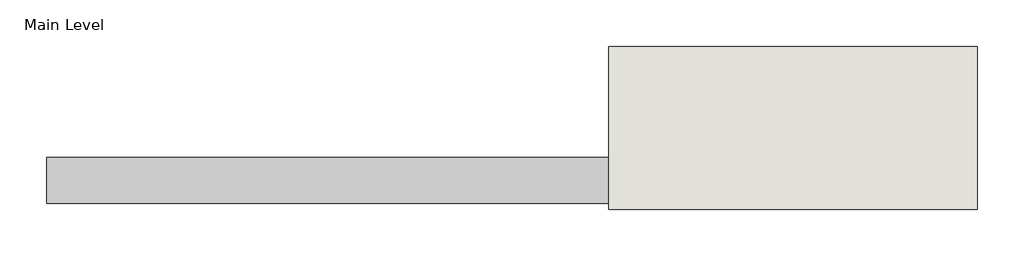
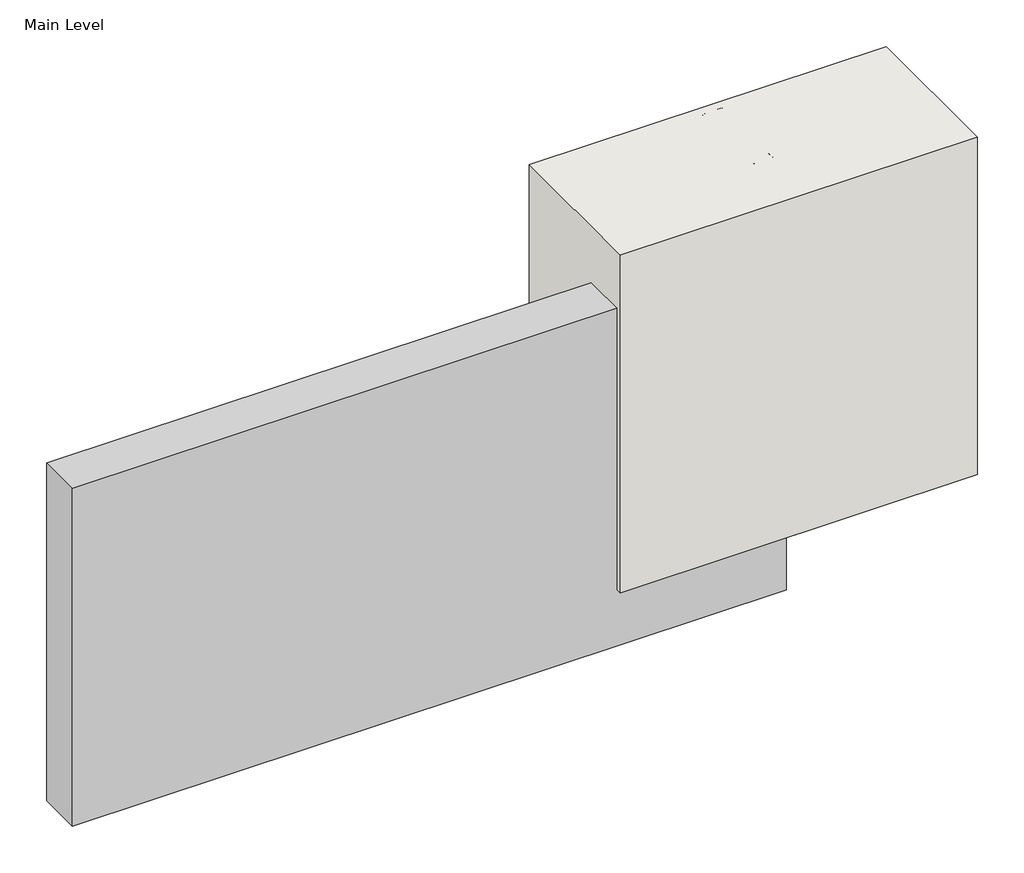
# One storey, incomplete: 7 proxies, 1 wall.
"""IFC4 building model written with IfcOpenShell, lengths in millimetres."""

import ifcopenshell
import ifcopenshell.guid

model = None  # the IFC model being written
_history = None  # IfcOwnerHistory: only IFC2X3 demands one
_inside = {}  # id of a spatial element -> (the spatial element, [elements in it])
_under = {}  # id of a project, library or spatial element -> (it, [spatial elements below it])
_declared = {}  # id of a project -> (the project, [libraries it declares])
_typed = {}  # id of a type object -> (the type object, [elements of that type])
_made_of = {}  # id of a material, layer set ... -> (it, [elements and type objects made of it])


def new_model(schema):
    """Start an empty IFC model of exactly this schema.

    Asked for "IFC4X3", IfcOpenShell would pick the latest addendum, in which some entities
    have other attributes; the version numbers below select the first issue.
    IFC2X3 requires an IfcOwnerHistory on every rooted entity: one is made here for all.
    """
    global model, _history
    if schema == "IFC4X3":
        model = ifcopenshell.file(schema_version=(4, 3, 0, 0))
    else:
        model = ifcopenshell.file(schema=schema)
    _inside.clear()
    _under.clear()
    _declared.clear()
    _typed.clear()
    _made_of.clear()
    _history = None
    if model.schema == "IFC2X3":
        org = make("IfcOrganization", Name="unknown")
        user = make(
            "IfcPersonAndOrganization",
            ThePerson=make("IfcPerson", FamilyName="unknown"),
            TheOrganization=org,
        )
        app = make(
            "IfcApplication",
            ApplicationDeveloper=org,
            Version="unknown",
            ApplicationFullName="unknown",
            ApplicationIdentifier="unknown",
        )
        _history = make(
            "IfcOwnerHistory",
            OwningUser=user,
            OwningApplication=app,
            ChangeAction="ADDED",
            CreationDate=0,
        )
    return model


def make(cls, **values):
    """One entity of the class cls with the attributes given. An attribute that is None is left unset."""
    return model.create_entity(
        cls, **{name: value for name, value in values.items() if value is not None}
    )


def rooted(cls, **values):
    """An entity with a GlobalId (a new one), such as an element, a storey or a relation."""
    return make(cls, GlobalId=ifcopenshell.guid.new(), OwnerHistory=_history, **values)


def si_unit(unit_type, name, prefix=None):
    """IfcSIUnit, for example si_unit("LENGTHUNIT", "METRE", prefix="MILLI")."""
    return make("IfcSIUnit", UnitType=unit_type, Prefix=prefix, Name=name)


def assignment(units):
    """IfcUnitAssignment: the units of a project."""
    return None if units is None else make("IfcUnitAssignment", Units=units)


def point(xyz):
    """IfcCartesianPoint."""
    return None if xyz is None else make("IfcCartesianPoint", Coordinates=xyz)


def direction(xyz):
    """IfcDirection."""
    return None if xyz is None else make("IfcDirection", DirectionRatios=xyz)


def frame(location, z_axis=None, x_axis=None):
    """IfcAxis2Placement3D, a coordinate frame: its origin and axes. An axis left out is left unset."""
    return make(
        "IfcAxis2Placement3D",
        Location=point(location),
        Axis=direction(z_axis),
        RefDirection=direction(x_axis),
    )


def frame_2d(location, x_axis=None):
    """IfcAxis2Placement2D, a coordinate frame in the plane: its origin and x axis."""
    return make(
        "IfcAxis2Placement2D", Location=point(location), RefDirection=direction(x_axis)
    )


def origin():
    """The frame at (0, 0, 0) with its axes left unset."""
    return frame((0.0, 0.0, 0.0))


def origin_with_axes():
    """The frame at (0, 0, 0) with the z axis (0, 0, 1) and the x axis (1, 0, 0) written out."""
    return frame((0.0, 0.0, 0.0), z_axis=(0.0, 0.0, 1.0), x_axis=(1.0, 0.0, 0.0))


def origin_2d():
    """The frame at (0, 0) in the plane with its x axis left unset."""
    return frame_2d((0.0, 0.0))


def place(relative_to, where):
    """IfcLocalPlacement: puts the frame where relative to a parent placement (None: the world)."""
    return make(
        "IfcLocalPlacement", PlacementRelTo=relative_to, RelativePlacement=where
    )


def context(
    kind, dimensions, precision=None, world=None, true_north=None, identifier=None
):
    """IfcGeometricRepresentationContext, for example the 3D "Model" context."""
    return make(
        "IfcGeometricRepresentationContext",
        ContextIdentifier=identifier,
        ContextType=kind,
        CoordinateSpaceDimension=dimensions,
        Precision=precision,
        WorldCoordinateSystem=world,
        TrueNorth=true_north,
    )


def project(units=None, contexts=None):
    """IfcProject with its units and contexts."""
    return rooted(
        "IfcProject",
        Name="project",
        RepresentationContexts=contexts,
        UnitsInContext=assignment(units),
    )


def spatial(cls, under=None, at=None, **own):
    """A site, building, storey or space (cls), placed at a placement, below another one or the project."""
    s = rooted(cls, ObjectPlacement=at, **own)
    if under is not None:
        _under.setdefault(under.id(), (under, []))[1].append(s)
    return s


def polyline(points):
    """IfcPolyline through the points."""
    return make("IfcPolyline", Points=[point(p) for p in points])


def circle_curve(where, radius):
    """IfcCircle in the frame where."""
    return make("IfcCircle", Position=where, Radius=radius)


def trimmed(basis, trim1, trim2, sense, master):
    """IfcTrimmedCurve: the piece of a basis curve between two trims."""
    return make(
        "IfcTrimmedCurve",
        BasisCurve=basis,
        Trim1=trim1,
        Trim2=trim2,
        SenseAgreement=sense,
        MasterRepresentation=master,
    )


def segment(curve, same_sense, transition):
    """IfcCompositeCurveSegment."""
    return make(
        "IfcCompositeCurveSegment",
        Transition=transition,
        SameSense=same_sense,
        ParentCurve=curve,
    )


def composite_curve(segments, self_intersect=None):
    """IfcCompositeCurve: segments joined end to end."""
    return make("IfcCompositeCurve", Segments=segments, SelfIntersect=self_intersect)


def outline(outer, holes=None, kind="AREA"):
    """IfcArbitraryClosedProfileDef: a profile drawn as a closed curve; with holes, ...WithVoids."""
    if holes is None:
        return make("IfcArbitraryClosedProfileDef", ProfileType=kind, OuterCurve=outer)
    return make(
        "IfcArbitraryProfileDefWithVoids",
        ProfileType=kind,
        OuterCurve=outer,
        InnerCurves=holes,
    )


def extrude(swept, where, along, depth):
    """IfcExtrudedAreaSolid: the profile swept, set in the frame where, extruded along a direction by depth."""
    return make(
        "IfcExtrudedAreaSolid",
        SweptArea=swept,
        Position=where,
        ExtrudedDirection=direction(along),
        Depth=depth,
    )


def shape(context_of_items, identifier, shape_type, items):
    """IfcShapeRepresentation: the items that make up one representation, for example the "Body"."""
    return make(
        "IfcShapeRepresentation",
        ContextOfItems=context_of_items,
        RepresentationIdentifier=identifier,
        RepresentationType=shape_type,
        Items=items,
    )


def source(mapping_origin, context_of_items, identifier, shape_type, items):
    """IfcRepresentationMap: a shape defined once, which mapped items show again and again."""
    return make(
        "IfcRepresentationMap",
        MappingOrigin=mapping_origin,
        MappedRepresentation=shape(context_of_items, identifier, shape_type, items),
    )


def transform(
    local_origin,
    x_axis=None,
    y_axis=None,
    z_axis=None,
    scale=None,
    scale2=None,
    scale3=None,
    uniform=True,
):
    """IfcCartesianTransformationOperator3D, or its non-uniform kind. x_axis, y_axis, z_axis: its Axis1, 2, 3."""
    if uniform:
        return make(
            "IfcCartesianTransformationOperator3D",
            Axis1=direction(x_axis),
            Axis2=direction(y_axis),
            LocalOrigin=point(local_origin),
            Scale=scale,
            Axis3=direction(z_axis),
        )
    return make(
        "IfcCartesianTransformationOperator3DnonUniform",
        Axis1=direction(x_axis),
        Axis2=direction(y_axis),
        LocalOrigin=point(local_origin),
        Scale=scale,
        Axis3=direction(z_axis),
        Scale2=scale2,
        Scale3=scale3,
    )


def mapped(mapping_source, mapping_target):
    """IfcMappedItem: shows the shape of a source again, moved by a transform."""
    return make(
        "IfcMappedItem", MappingSource=mapping_source, MappingTarget=mapping_target
    )


def made_of(thing, what):
    """Note that an element or type object is made of a material, layer set ...; save() writes the relation."""
    if what is not None:
        _made_of.setdefault(what.id(), (what, []))[1].append(thing)
    return thing


def element(
    cls,
    number,
    at=None,
    inside=None,
    cuts=None,
    type_object=None,
    material=None,
    context=None,
    identifier="Body",
    shape_type=None,
    held_by="IfcProductDefinitionShape",
    body=None,
    shapes=None,
    **own,
):
    """One element of the class cls, such as IfcWall. Its Tag is "e" and its number.

    at: its placement. inside: the storey or other place that contains it. cuts: it is an
    opening in that element (IfcRelVoidsElement). A single representation is given by context,
    identifier, shape_type and body (its items); several are given by shapes. held_by: the class
    of the entity that holds the representations. save() writes the other relations.
    """
    e = rooted(cls, Tag="e%d" % number, ObjectPlacement=at, **own)
    if body is not None:
        shapes = [shape(context, identifier, shape_type, body)]
    if shapes is not None:
        e.Representation = make(held_by, Representations=shapes)
    if inside is not None:
        _inside.setdefault(inside.id(), (inside, []))[1].append(e)
    if cuts is not None:
        rooted(
            "IfcRelVoidsElement", RelatingBuildingElement=cuts, RelatedOpeningElement=e
        )
    if type_object is not None:
        _typed.setdefault(type_object.id(), (type_object, []))[1].append(e)
    return made_of(e, material)


def aggregate(whole, parts):
    """IfcRelAggregates: a whole, such as a stair, and the parts it consists of."""
    return rooted("IfcRelAggregates", RelatingObject=whole, RelatedObjects=parts)


def save(model, path):
    """Write the relations noted so far, then the file.

    IfcRelAggregates (storeys below a building ...), IfcRelContainedInSpatialStructure (elements
    in a storey), IfcRelDefinesByType, IfcRelAssociatesMaterial and IfcRelDeclares: one each for
    every whole, place, type object, material and project.
    """
    for whole, parts in _under.values():
        aggregate(whole, parts)
    for where, things in _inside.values():
        rooted(
            "IfcRelContainedInSpatialStructure",
            RelatedElements=things,
            RelatingStructure=where,
        )
    for kind, things in _typed.values():
        rooted("IfcRelDefinesByType", RelatedObjects=things, RelatingType=kind)
    for what, things in _made_of.values():
        rooted("IfcRelAssociatesMaterial", RelatedObjects=things, RelatingMaterial=what)
    for by, libraries in _declared.values():
        rooted("IfcRelDeclares", RelatingContext=by, RelatedDefinitions=libraries)
    model.write(path)


def plane_surface(at):
    """IfcPlane: the flat surface through the origin of the frame at, square to its z axis."""
    return make("IfcPlane", Position=at)


def cylinder_surface(at, radius):
    """IfcCylindricalSurface: all points at the distance radius from the z axis of the frame at."""
    return make("IfcCylindricalSurface", Position=at, Radius=radius)


def revolved_surface(curve, axis_point, axis_direction):
    """IfcSurfaceOfRevolution: the curve turned about the line through axis_point along axis_direction."""
    return make(
        "IfcSurfaceOfRevolution",
        SweptCurve=make("IfcArbitraryOpenProfileDef", ProfileType="CURVE", Curve=curve),
        AxisPosition=make("IfcAxis1Placement", Location=point(axis_point), Axis=direction(axis_direction)),
    )


def advanced_brep(points, edges, surfaces, faces):
    """IfcAdvancedBrep: a solid bounded by faces that lie on surfaces and meet in shared edges.

    An edge is (start, end): straight between two places in points (the first is 0);
    or (start, end, curve); or (start, end, curve, False) where it runs against its curve.
    A face is (place in surfaces, loops), or (place, loops, False) where it looks against
    its surface's normal. A loop lists edges by number (the first is 1), with a minus sign
    where the edge is run from its end to its start. The first loop is the outer one.
    """
    corners = [point(p) for p in points]
    vertices = [make("IfcVertexPoint", VertexGeometry=c) for c in corners]
    made = []
    for start, end, *more in edges:
        made.append(
            make(
                "IfcEdgeCurve",
                EdgeStart=vertices[start],
                EdgeEnd=vertices[end],
                EdgeGeometry=more[0] if more else make("IfcPolyline", Points=[corners[start], corners[end]]),
                SameSense=more[1] if len(more) > 1 else True,
            )
        )
    hull = []
    for where, loops, *sense in faces:
        bounds = []
        for j, loop in enumerate(loops):
            ring = [make("IfcOrientedEdge", EdgeElement=made[abs(k) - 1], Orientation=k > 0) for k in loop]
            bounds.append(
                make(
                    "IfcFaceOuterBound" if j == 0 else "IfcFaceBound",
                    Bound=make("IfcEdgeLoop", EdgeList=ring),
                    Orientation=True,
                )
            )
        hull.append(make("IfcAdvancedFace", Bounds=bounds, FaceSurface=surfaces[where], SameSense=sense[0] if sense else True))
    return make("IfcAdvancedBrep", Outer=make("IfcClosedShell", CfsFaces=hull))


def generic_models_38adcc71(model_context):
    return source(origin(), model_context, "Body", "SweptSolid", [
        extrude(outline(composite_curve([segment(polyline([(9.525, 0.0), (9.525, -19.05)]), True, "CONTINUOUS"), segment(trimmed(circle_curve(frame_2d((0.0, -35.5477839)), 19.05), [point((9.525, -19.05))], [point((-9.525, -19.05))], True, "CARTESIAN"), True, "CONTINUOUS"), segment(polyline([(-9.525, -19.05), (-9.525, 0.0)]), True, "CONTINUOUS"), segment(trimmed(circle_curve(origin_2d(), 9.525), [point((-9.525, 0.0))], [point((9.525, 0.0))], True, "CARTESIAN"), True, "CONTINUOUS")], self_intersect=False)), origin_with_axes(), (0.0, 0.0, 1.0), 508.0),
        extrude(outline(composite_curve([segment(trimmed(circle_curve(origin_2d(), 9.525), [point((-9.525, 0.0))], [point((9.525, 0.0))], False, "CARTESIAN"), True, "CONTINUOUS"), segment(trimmed(circle_curve(origin_2d(), 9.525), [point((9.525, 0.0))], [point((-9.525, 0.0))], False, "CARTESIAN"), True, "CONTINUOUS")], self_intersect=False)), origin_with_axes(), (0.0, 0.0, 1.0), 508.0),
    ])


def generic_models_03ec6e0e(model_context):
    return source(origin(), model_context, "Body", "AdvancedBrep", [
        advanced_brep(
        [(3.96875, 0.0, -0.396875), (-3.96875, 0.0, -0.396875), (-3.96875, 0.0, 0.396875), (3.96875, 0.0, 0.396875), (0.79375, 0.0, -3.571875), (-0.79375, 0.0, -3.571875), (0.79375, 0.0, -35.5223148), (-0.79375, 0.0, -35.5223148), (0.0, 0.0, -37.703125), (-2.4010937, 0.0, 0.396875), (-2.4010937, 0.396875, 0.396875), (-0.396875, 0.396875, 0.396875), (-0.396875, 2.4010937, 0.396875), (0.396875, 2.4010937, 0.396875), (0.396875, 0.396875, 0.396875), (2.4010938, 0.396875, 0.396875), (2.4010938, 0.0, 0.396875), (2.4010938, -0.396875, 0.396875), (0.396875, -0.396875, 0.396875), (0.396875, -2.4010938, 0.396875), (-0.396875, -2.4010938, 0.396875), (-0.396875, -0.396875, 0.396875), (-2.4010937, -0.396875, 0.396875), (0.396875, -2.4010938, -1.2025097), (0.396875, -0.396875, -1.2025097), (2.4010938, -0.396875, -1.2025097), (2.4010938, 0.396875, -1.2025097), (0.396875, 0.396875, -1.2025097), (0.396875, 2.4010937, -1.2025097), (-0.396875, 2.4010937, -1.2025097), (-0.396875, 0.396875, -1.2025097), (-2.4010937, 0.396875, -1.2025097), (-2.4010937, -0.396875, -1.2025097), (-0.396875, -0.396875, -1.2025097), (-0.396875, -2.4010938, -1.2025097)],
        [
            (0, 1, circle_curve(frame((0.0, 0.0, -0.396875), z_axis=(0.0, 0.0, 1.0), x_axis=(-1.0, 0.0, 0.0)), 3.96875)),
            (1, 2),
            (2, 3, circle_curve(frame((0.0, 0.0, 0.396875), z_axis=(0.0, 0.0, -1.0), x_axis=(-1.0, 0.0, 0.0)), 3.96875)),
            (3, 0),
            (1, 0, circle_curve(frame((0.0, 0.0, -0.396875), z_axis=(0.0, 0.0, 1.0), x_axis=(-1.0, 0.0, 0.0)), 3.96875)),
            (3, 2, circle_curve(frame((0.0, 0.0, 0.396875), z_axis=(0.0, 0.0, -1.0), x_axis=(-1.0, 0.0, 0.0)), 3.96875)),
            (0, 4),
            (4, 5, circle_curve(frame((0.0, 0.0, -3.571875), z_axis=(0.0, 0.0, 1.0), x_axis=(-1.0, 0.0, 0.0)), 0.79375)),
            (5, 1),
            (5, 4, circle_curve(frame((0.0, 0.0, -3.571875), z_axis=(0.0, 0.0, 1.0), x_axis=(-1.0, 0.0, 0.0)), 0.79375)),
            (4, 6),
            (6, 7, circle_curve(frame((0.0, 0.0, -35.5223148), z_axis=(0.0, 0.0, 1.0), x_axis=(-1.0, 0.0, 0.0)), 0.79375)),
            (7, 5),
            (7, 6, circle_curve(frame((0.0, 0.0, -35.5223148), z_axis=(0.0, 0.0, 1.0), x_axis=(-1.0, 0.0, 0.0)), 0.79375)),
            (6, 8),
            (8, 7),
            (2, 9),
            (9, 10),
            (10, 11),
            (11, 12),
            (12, 13),
            (13, 14),
            (14, 15),
            (15, 16),
            (16, 3),
            (16, 17),
            (17, 18),
            (18, 19),
            (19, 20),
            (20, 21),
            (21, 22),
            (22, 9),
            (23, 24),
            (24, 25),
            (25, 26),
            (26, 27),
            (27, 28),
            (28, 29),
            (29, 30),
            (30, 31),
            (31, 32),
            (32, 33),
            (33, 34),
            (34, 23),
            (34, 20),
            (19, 23),
            (33, 21),
            (32, 22),
            (31, 10),
            (30, 11),
            (29, 12),
            (28, 13),
            (27, 14),
            (26, 15),
            (25, 17),
            (24, 18),
        ],
        [
            cylinder_surface(frame((0.0, 0.0, 7.2579317), z_axis=(0.0, 0.0, -1.0), x_axis=(-1.0, 0.0, 0.0)), 3.96875),
            revolved_surface(polyline([(-3.96875, 0.0, -0.396875), (-0.79375, 0.0, -3.571875)]), (0.0, 0.0, 7.2579317), (0.0, 0.0, -1.0)),
            cylinder_surface(frame((0.0, 0.0, 7.2579317), z_axis=(0.0, 0.0, -1.0), x_axis=(-1.0, 0.0, 0.0)), 0.79375),
            revolved_surface(polyline([(-0.79375, 0.0, -35.5223148), (0.0, 0.0, -37.703125)]), (0.0, 0.0, 7.2579317), (0.0, 0.0, -1.0)),
            plane_surface(frame((0.0, 0.0, 0.396875), z_axis=(0.0, 0.0, 1.0), x_axis=(-1.0, 0.0, 0.0))),
            plane_surface(frame((-0.396875, -2.4010938, -1.2025097), z_axis=(0.0, 0.0, 1.0), x_axis=(-1.0, 0.0, 0.0))),
            plane_surface(frame((0.396875, -2.4010938, -1.2025097), z_axis=(0.0, 1.0, 0.0), x_axis=(0.0, 0.0, 1.0))),
            plane_surface(frame((-0.396875, -2.4010938, -1.2025097), z_axis=(1.0, 0.0, 0.0), x_axis=(0.0, 0.0, 1.0))),
            plane_surface(frame((-0.396875, -0.396875, -1.2025097), z_axis=(0.0, 1.0, 0.0), x_axis=(0.0, 0.0, 1.0))),
            plane_surface(frame((-2.4010937, -0.396875, -1.2025097), z_axis=(1.0, 0.0, 0.0), x_axis=(0.0, 0.0, 1.0))),
            plane_surface(frame((-2.4010937, 0.396875, -1.2025097), z_axis=(0.0, -1.0, 0.0), x_axis=(0.0, 0.0, 1.0))),
            plane_surface(frame((-0.396875, 0.396875, -1.2025097), z_axis=(1.0, 0.0, 0.0), x_axis=(0.0, 0.0, 1.0))),
            plane_surface(frame((-0.396875, 2.4010937, -1.2025097), z_axis=(0.0, -1.0, 0.0), x_axis=(0.0, 0.0, 1.0))),
            plane_surface(frame((0.396875, 2.4010937, -1.2025097), z_axis=(-1.0, 0.0, 0.0), x_axis=(0.0, 0.0, 1.0))),
            plane_surface(frame((0.396875, 0.396875, -1.2025097), z_axis=(0.0, -1.0, 0.0), x_axis=(0.0, 0.0, 1.0))),
            plane_surface(frame((2.4010938, 0.396875, -1.2025097), z_axis=(-1.0, 0.0, 0.0), x_axis=(0.0, 0.0, 1.0))),
            plane_surface(frame((2.4010938, -0.396875, -1.2025097), z_axis=(0.0, 1.0, 0.0), x_axis=(0.0, 0.0, 1.0))),
            plane_surface(frame((0.396875, -0.396875, -1.2025097), z_axis=(-1.0, 0.0, 0.0), x_axis=(0.0, 0.0, 1.0))),
        ],
        [
            (0, [[1, 2, 3, 4]]),
            (0, [[-2, 5, -4, 6]]),
            (1, [[-1, 7, 8, 9]]),
            (1, [[-5, -9, 10, -7]]),
            (2, [[-8, 11, 12, 13]]),
            (2, [[-10, -13, 14, -11]]),
            (3, [[-12, 15, 16]]),
            (3, [[-14, -16, -15]]),
            (4, [[-3, 17, 18, 19, 20, 21, 22, 23, 24, 25]]),
            (4, [[-6, -25, 26, 27, 28, 29, 30, 31, 32, -17]]),
            (5, [[33, 34, 35, 36, 37, 38, 39, 40, 41, 42, 43, 44]]),
            (6, [[-44, 45, -29, 46]]),
            (7, [[-43, 47, -30, -45]]),
            (8, [[-42, 48, -31, -47]]),
            (9, [[-41, 49, -18, -32, -48]]),
            (10, [[-40, 50, -19, -49]]),
            (11, [[-39, 51, -20, -50]]),
            (12, [[-38, 52, -21, -51]]),
            (13, [[-37, 53, -22, -52]]),
            (14, [[-36, 54, -23, -53]]),
            (15, [[-35, 55, -26, -24, -54]]),
            (16, [[-34, 56, -27, -55]]),
            (17, [[-33, -46, -28, -56]]),
        ],
    ),
    ])


def proxy_81afb05a(model_context):
    return source(origin(), model_context, "Body", "SweptSolid", [
        extrude(outline(polyline([(-609.6, 304.8), (609.6, 304.8), (609.6, -304.8), (-609.6, -304.8), (-609.6, 304.8)])), origin_with_axes(), (0.0, 0.0, 1.0), 76.2),
    ])


def proxy_5fc139d0(model_context):
    return source(origin(), model_context, "Body", "SweptSolid", [
        extrude(outline(polyline([(-101.6, 0.0), (0.0, 0.0), (0.0, -0.79375), (-101.6, -0.79375), (-101.6, 0.0)])), origin_with_axes(), (0.0, 0.0, 1.0), 584.2),
    ])


def finish_coat_valley_finish_coat_valley_fec99bc7(model_context):
    return source(origin(), model_context, "Body", "SweptSolid", [
        extrude(outline(polyline([(26815.4039273, 630.8048866), (26815.4039273, 554.6048866), (26809.0539273, 554.6048866), (26809.0539273, 624.4548866), (26707.4539273, 624.4548866), (26707.4539273, 630.8048866), (26815.4039273, 630.8048866)])), origin_with_axes(), (0.0, 0.0, 1.0), 508.0),
        extrude(outline(composite_curve([segment(trimmed(circle_curve(frame_2d((26824.9289273, 541.2838457)), 19.05), [point((26815.4039273, 557.7816297))], [point((26818.5789273, 559.244358))], False, "CARTESIAN"), True, "CONTINUOUS"), segment(polyline([(26818.5789273, 559.244358), (26818.5789273, 545.0816297), (26815.4039273, 545.0816297), (26815.4039273, 557.7816297)]), True, "CONTINUOUS")], self_intersect=False)), origin_with_axes(), (0.0, 0.0, 1.0), 381.0),
    ])


def proxy_d4c17246(model_context):
    return source(origin(), model_context, "Body", "SweptSolid", [
        extrude(outline(composite_curve([segment(polyline([(19.05, 63.5), (15.875, 63.5), (15.875, 70.2679713)]), True, "CONTINUOUS"), segment(trimmed(circle_curve(frame_2d((12.7, 69.85)), 3.2023936), [point((15.875, 70.2679713))], [point((13.1179713, 73.025))], True, "CARTESIAN"), True, "CONTINUOUS"), segment(polyline([(13.1179713, 73.025), (-13.1179713, 73.025)]), True, "CONTINUOUS"), segment(trimmed(circle_curve(frame_2d((-12.7, 69.85)), 3.2023936), [point((-13.1179713, 73.025))], [point((-15.875, 70.2679713))], True, "CARTESIAN"), True, "CONTINUOUS"), segment(polyline([(-15.875, 70.2679713), (-15.875, -70.2679713)]), True, "CONTINUOUS"), segment(trimmed(circle_curve(frame_2d((-12.7, -69.85)), 3.2023936), [point((-15.875, -70.2679713))], [point((-13.1179713, -73.025))], True, "CARTESIAN"), True, "CONTINUOUS"), segment(polyline([(-13.1179713, -73.025), (13.1179713, -73.025)]), True, "CONTINUOUS"), segment(trimmed(circle_curve(frame_2d((12.7, -69.85)), 3.2023936), [point((13.1179713, -73.025))], [point((15.875, -70.2679713))], True, "CARTESIAN"), True, "CONTINUOUS"), segment(polyline([(15.875, -70.2679713), (15.875, -63.5), (19.05, -63.5), (19.05, -69.85)]), True, "CONTINUOUS"), segment(trimmed(circle_curve(frame_2d((12.7, -69.85)), 6.35), [point((19.05, -69.85))], [point((12.7, -76.2))], False, "CARTESIAN"), True, "CONTINUOUS"), segment(polyline([(12.7, -76.2), (-12.7, -76.2)]), True, "CONTINUOUS"), segment(trimmed(circle_curve(frame_2d((-12.7, -69.85)), 6.35), [point((-12.7, -76.2))], [point((-19.05, -69.85))], False, "CARTESIAN"), True, "CONTINUOUS"), segment(polyline([(-19.05, -69.85), (-19.05, 69.85)]), True, "CONTINUOUS"), segment(trimmed(circle_curve(frame_2d((-12.7, 69.85)), 6.35), [point((-19.05, 69.85))], [point((-12.7, 76.2))], False, "CARTESIAN"), True, "CONTINUOUS"), segment(polyline([(-12.7, 76.2), (12.7, 76.2)]), True, "CONTINUOUS"), segment(trimmed(circle_curve(frame_2d((12.7, 69.85)), 6.35), [point((12.7, 76.2))], [point((19.05, 69.85))], False, "CARTESIAN"), True, "CONTINUOUS"), segment(polyline([(19.05, 69.85), (19.05, 63.5)]), True, "CONTINUOUS")], self_intersect=False)), origin_with_axes(), (0.0, 0.0, 1.0), 609.6),
    ])


model = new_model("IFC4")

# Units and contexts
model_context = context("Model", 3, world=origin())
ifc_project = project(units=[si_unit("LENGTHUNIT", "METRE", prefix="MILLI")], contexts=[model_context])

# Site, building, storey
site = spatial("IfcSite", under=ifc_project)
building = spatial("IfcBuilding", under=site)
storey = spatial("IfcBuildingStorey", under=building, Name="Main Level", Elevation=0.0)

# Proxies
placement = place(None, origin())
generic_models_shape = generic_models_38adcc71(model_context)
element("IfcBuildingElementProxy", 1, Name="CRAi Generic Model Backer Rod and Sealant : CRAi Generic Model Backer Rod and Sealant", ObjectType="CRAi Generic Model Backer Rod and Sealant : CRAi Generic Model Backer Rod and Sealant", at=placement, inside=storey, context=model_context, shape_type="MappedRepresentation", body=[
    mapped(generic_models_shape, transform((26824.9289273, 576.8316297, 0.0), x_axis=(1.0, 0.0, 0.0), y_axis=(0.0, 1.0, 0.0), z_axis=(0.0, 0.0, 1.0))),
])
generic_models_2_shape = generic_models_03ec6e0e(model_context)
element("IfcBuildingElementProxy", 2, Name="CRAi Generic Model Drywall Screw : CRAi Generic Model Drywall Screw", ObjectType="CRAi Generic Model Drywall Screw : CRAi Generic Model Drywall Screw", at=placement, inside=storey, context=model_context, shape_type="MappedRepresentation", body=[
    mapped(generic_models_2_shape, transform((26834.4539273, 633.9816297, 584.2), x_axis=(1.0, 0.0, 0.0), y_axis=(0.0, 0.0, 1.0), z_axis=(0.0, -1.0, 0.0))),
])
element("IfcBuildingElementProxy", 3, Name="CRAi Generic Model Drywall Screw : CRAi Generic Model Drywall Screw", ObjectType="CRAi Generic Model Drywall Screw : CRAi Generic Model Drywall Screw", at=placement, inside=storey, context=model_context, shape_type="MappedRepresentation", body=[
    mapped(generic_models_2_shape, transform((26815.4039273, 633.9816297, 584.2), x_axis=(1.0, 0.0, 0.0), y_axis=(0.0, 0.0, 1.0), z_axis=(0.0, -1.0, 0.0))),
])
proxy_shape = proxy_81afb05a(model_context)
element("IfcBuildingElementProxy", 4, Name="Durabond Generic Model Equalite Insulation Board : 3\"", ObjectType="Durabond Generic Model Equalite Insulation Board : 3\"", at=placement, inside=storey, context=model_context, shape_type="MappedRepresentation", body=[
    mapped(proxy_shape, transform((26199.4539273, 630.8048866, 203.3487758), x_axis=(1.0, 0.0, 0.0), y_axis=(0.0, 0.0, 1.0), z_axis=(0.0, -1.0, 0.0))),
])
proxy_2_shape = proxy_5fc139d0(model_context)
element("IfcBuildingElementProxy", 5, Name="Durabond Generic Model Barrier Seam Tape Straight : 4\" Barrier Seam Tape", ObjectType="Durabond Generic Model Barrier Seam Tape Straight : 4\" Barrier Seam Tape", at=placement, inside=storey, context=model_context, shape_type="MappedRepresentation", body=[
    mapped(proxy_2_shape, transform((26875.7289273, 633.9816297, 0.0), x_axis=(1.0, 0.0, 0.0), y_axis=(0.0, 1.0, 0.0), z_axis=(0.0, 0.0, 1.0))),
])
finish_coat_valley_finish_coat_valley_shape = finish_coat_valley_finish_coat_valley_fec99bc7(model_context)
element("IfcBuildingElementProxy", 6, Name="Finish Coat Valley : Finish Coat Valley", ObjectType="Finish Coat Valley : Finish Coat Valley", at=placement, inside=storey, context=model_context, shape_type="MappedRepresentation", body=[
    mapped(finish_coat_valley_finish_coat_valley_shape, transform((0.0, 0.0, 0.0), x_axis=(1.0, 0.0, 0.0), y_axis=(0.0, 1.0, 0.0), z_axis=(0.0, 0.0, 1.0))),
])
proxy_3_shape = proxy_d4c17246(model_context)
element("IfcBuildingElementProxy", 7, Name="CRAi Generic Model Metal Stud : Metal Framing Stud - 1\" x 3.5\"", ObjectType="CRAi Generic Model Metal Stud : Metal Framing Stud - 1\" x 3.5\"", at=placement, inside=storey, context=model_context, shape_type="MappedRepresentation", body=[
    mapped(proxy_3_shape, transform((26824.9289273, 726.0566297, 0.0), x_axis=(1.0, 0.0, 0.0), y_axis=(0.0, 1.0, 0.0), z_axis=(0.0, 0.0, 1.0))),
])

# Wall
element("IfcWall", 8, ObjectType="189mm (7.5”) EIFS Field Applied on Mtl. Stud Layer - 50mm Grooved Insulation Board Metal Stud Wall(AirStop) 2", at=placement, inside=storey, context=model_context, shape_type="SweptSolid", body=[
    extrude(outline(polyline([(27129.7289273, 545.0816297), (26520.1289273, 545.0816297), (26520.1289273, 814.9566297), (27129.7289273, 814.9566297), (27129.7289273, 545.0816297)])), origin_with_axes(), (0.0, 0.0, 1.0), 609.6),
])

save(model, "model.ifc")
